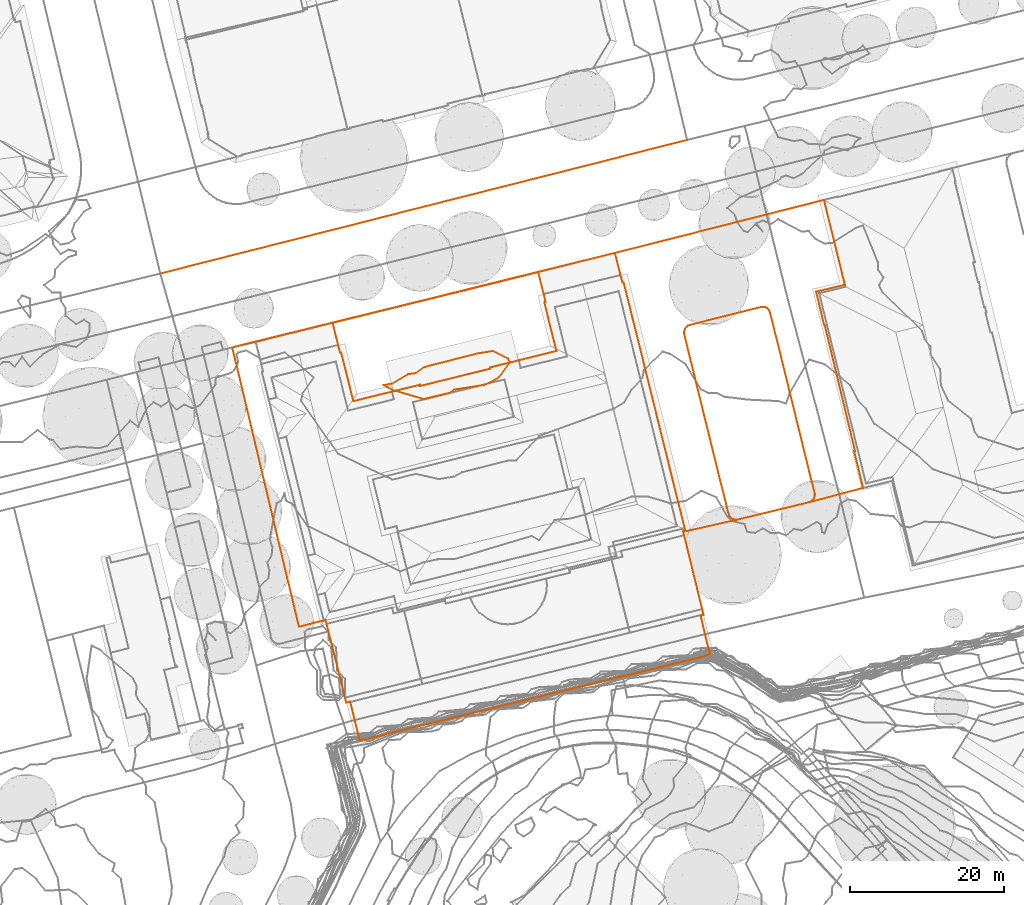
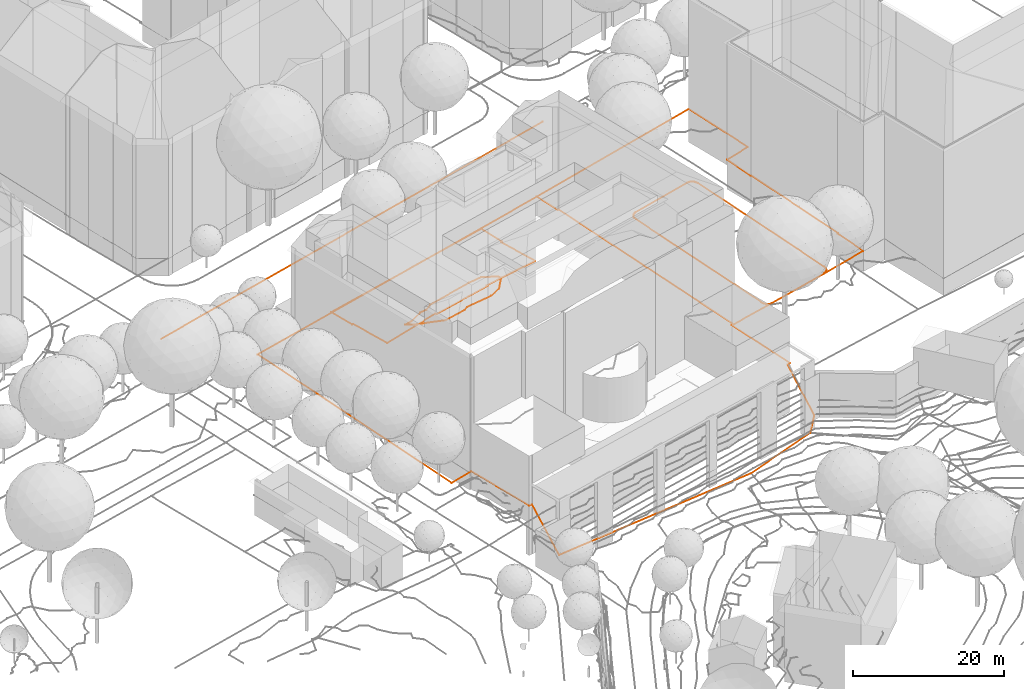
# Not in any storey, part 181 of 494: 6 proxies.
"""IFC2X3 model written with IfcOpenShell, lengths in metres."""

from ifc_helpers import new_model, entity, si_unit, frame, origin_with_axes, place, context, subcontext, project, element, save


model = new_model("IFC2X3")

# Units and contexts
model_context = context("Model", 3, precision=1e-05, world=origin_with_axes())
body_context = subcontext(model_context, "Body", "Model", "MODEL_VIEW")
ifc_project = project(units=[si_unit("AREAUNIT", "SQUARE_METRE"), si_unit("LENGTHUNIT", "METRE")], contexts=[model_context])

# Proxies
proxy_1_placement = place(None, frame((288.591732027, 373.6587317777, 541.001), z_axis=(0.0, 0.0, 1.0), x_axis=(1.0, 0.0, 0.0)))
element("IfcBuildingElementProxy", 1, at=proxy_1_placement, Name="Road 46", ObjectType="NOTDEFINED", context=body_context, shape_type="GeometricCurveSet", body=[
    entity("IfcGeometricCurveSet", [entity("IfcPolyline", [entity("IfcCartesianPoint", [0.0, 0.0, 0.0]), entity("IfcCartesianPoint", [34.4539999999, 8.7349997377, 0.326]), entity("IfcCartesianPoint", [68.2859999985, 17.3119994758, 0.647])])]),
])
proxy_2_placement = place(None, frame((347.5157320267, 376.3247160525, 541.7142049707), z_axis=(0.0, 0.0, 1.0), x_axis=(1.0, 0.0, 0.0)))
element("IfcBuildingElementProxy", 2, at=proxy_2_placement, Name="Roads Outline 53", ObjectType="NOTDEFINED", context=body_context, shape_type="GeometricCurveSet", body=[
    entity("IfcGeometricCurveSet", [entity("IfcPolyline", [entity("IfcCartesianPoint", [0.0, 0.0, 0.0]), entity("IfcCartesianPoint", [27.1069999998, 6.8729999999, 0.4775137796]), entity("IfcCartesianPoint", [29.8000000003, -4.105, 0.0668695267]), entity("IfcCartesianPoint", [26.0830000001, -5.0380000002, -0.1097041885]), entity("IfcCartesianPoint", [27.1570000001, -9.443, -0.3986468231]), entity("IfcCartesianPoint", [27.219, -9.4230000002, -0.3930229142]), entity("IfcCartesianPoint", [31.1329999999, -25.655, -1.2277701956]), entity("IfcCartesianPoint", [31.0070000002, -25.6950000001, -1.2331651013]), entity("IfcCartesianPoint", [32.1830000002, -30.4710000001, -1.5222006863]), entity("IfcCartesianPoint", [25.1350000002, -32.318, -1.5921736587]), entity("IfcCartesianPoint", [25.2310000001, -32.291, -1.5892982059]), entity("IfcCartesianPoint", [25.4560000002, -32.182, -1.5800318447]), entity("IfcCartesianPoint", [25.6460000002, -32.0210000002, -1.569376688]), entity("IfcCartesianPoint", [25.7910000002, -31.817, -1.5587249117]), entity("IfcCartesianPoint", [25.8810000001, -31.584, -1.5456667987]), entity("IfcCartesianPoint", [25.9100000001, -31.3360000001, -1.5296057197]), entity("IfcCartesianPoint", [25.8769999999, -31.0890000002, -1.5101132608]), entity("IfcCartesianPoint", [20.1310000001, -7.7720000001, -0.1719584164]), entity("IfcCartesianPoint", [20.0410000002, -7.5260000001, -0.1568625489]), entity("IfcCartesianPoint", [19.8910000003, -7.3120000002, -0.1403535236]), entity("IfcCartesianPoint", [19.6899999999, -7.1440000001, -0.1200905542]), entity("IfcCartesianPoint", [19.4530000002, -7.034, -0.1076824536]), entity("IfcCartesianPoint", [19.1950000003, -6.99, -0.0912392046]), entity("IfcCartesianPoint", [18.9339999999, -7.014, -0.0731587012]), entity("IfcCartesianPoint", [9.713, -9.3220000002, -0.2328251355]), entity("IfcCartesianPoint", [9.4649999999, -9.425, -0.2517277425]), entity("IfcCartesianPoint", [9.253, -9.5890000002, -0.2694180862]), entity("IfcCartesianPoint", [9.091, -9.8030000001, -0.2988066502]), entity("IfcCartesianPoint", [8.9900000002, -10.0520000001, -0.3315850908]), entity("IfcCartesianPoint", [8.9580000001, -10.318, -0.3578498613]), entity("IfcCartesianPoint", [8.9960000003, -10.584, -0.3762912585]), entity("IfcCartesianPoint", [14.7039999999, -33.7450000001, -1.6466737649]), entity("IfcCartesianPoint", [14.7760000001, -33.9950000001, -1.6755954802]), entity("IfcCartesianPoint", [14.9100000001, -34.219, -1.7018900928]), entity("IfcCartesianPoint", [15.0970000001, -34.4000000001, -1.7252035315]), entity("IfcCartesianPoint", [15.3250000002, -34.5260000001, -1.7438471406]), entity("IfcCartesianPoint", [15.5780000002, -34.5890000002, -1.7547536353]), entity("IfcCartesianPoint", [15.838, -34.585, -1.7402559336]), entity("IfcCartesianPoint", [9.1460000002, -36.078, -1.9149801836]), entity("IfcCartesianPoint", [1.1400000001, -3.8160000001, -0.1567824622]), entity("IfcCartesianPoint", [0.9720000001, -3.8570000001, -0.1541655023]), entity("IfcCartesianPoint", [0.0, 0.0, 0.0])])]),
])
proxy_3_placement = place(None, frame((356.4737320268, 366.0067160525, 541.3563551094), z_axis=(0.0, 0.0, 1.0), x_axis=(1.0, 0.0, 0.0)))
element("IfcBuildingElementProxy", 3, at=proxy_3_placement, Name="Roads Outline 54", ObjectType="NOTDEFINED", context=body_context, shape_type="GeometricCurveSet", body=[
    entity("IfcGeometricCurveSet", [entity("IfcPolyline", [entity("IfcCartesianPoint", [0.0380000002, -0.2660000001, -0.0184413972]), entity("IfcCartesianPoint", [0.0, 0.0, 0.0]), entity("IfcCartesianPoint", [0.0320000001, 0.2659999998, 0.0262647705]), entity("IfcCartesianPoint", [0.1329999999, 0.5149999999, 0.0590432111]), entity("IfcCartesianPoint", [0.2949999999, 0.7289999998, 0.0884317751]), entity("IfcCartesianPoint", [0.5069999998, 0.8929999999, 0.1061221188]), entity("IfcCartesianPoint", [0.7549999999, 0.9959999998, 0.1250247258]), entity("IfcCartesianPoint", [9.9759999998, 3.304, 0.2846911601]), entity("IfcCartesianPoint", [10.2370000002, 3.328, 0.2666106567]), entity("IfcCartesianPoint", [10.4950000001, 3.284, 0.2501674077]), entity("IfcCartesianPoint", [10.7319999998, 3.1739999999, 0.2377593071]), entity("IfcCartesianPoint", [10.9330000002, 3.0059999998, 0.2174963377]), entity("IfcCartesianPoint", [11.0830000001, 2.7919999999, 0.2009873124]), entity("IfcCartesianPoint", [11.173, 2.5459999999, 0.1858914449]), entity("IfcCartesianPoint", [16.9189999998, -20.7710000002, -1.1522633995]), entity("IfcCartesianPoint", [16.952, -21.0180000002, -1.1717558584]), entity("IfcCartesianPoint", [16.923, -21.2660000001, -1.1878169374]), entity("IfcCartesianPoint", [16.8330000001, -21.4990000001, -1.2008750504]), entity("IfcCartesianPoint", [16.6880000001, -21.7030000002, -1.2115268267]), entity("IfcCartesianPoint", [16.4980000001, -21.8640000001, -1.2221819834]), entity("IfcCartesianPoint", [16.273, -21.973, -1.2314483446]), entity("IfcCartesianPoint", [16.1770000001, -22.0, -1.2343237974]), entity("IfcCartesianPoint", [6.8799999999, -24.267, -1.3824060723]), entity("IfcCartesianPoint", [6.6200000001, -24.2710000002, -1.396903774]), entity("IfcCartesianPoint", [6.3670000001, -24.2080000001, -1.3859972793]), entity("IfcCartesianPoint", [6.139, -24.0820000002, -1.3673536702]), entity("IfcCartesianPoint", [5.952, -23.9010000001, -1.3440402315]), entity("IfcCartesianPoint", [5.818, -23.6770000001, -1.3177456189]), entity("IfcCartesianPoint", [5.7459999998, -23.4270000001, -1.2888239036]), entity("IfcCartesianPoint", [0.0380000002, -0.2660000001, -0.0184413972])])]),
])
proxy_4_placement = place(None, frame((310.9307320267, 367.2567160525, 541.4095219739), z_axis=(0.0, 0.0, 1.0), x_axis=(1.0, 0.0, 0.0)))
element("IfcBuildingElementProxy", 4, at=proxy_4_placement, Name="Roads Outline 61", ObjectType="NOTDEFINED", context=body_context, shape_type="GeometricCurveSet", body=[
    entity("IfcGeometricCurveSet", [entity("IfcPolyline", [entity("IfcCartesianPoint", [0.0, 0.0, 0.0]), entity("IfcCartesianPoint", [26.6460000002, 6.5799999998, 0.1190935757]), entity("IfcCartesianPoint", [27.6039999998, 2.7179999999, 0.0345169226]), entity("IfcCartesianPoint", [27.4339999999, 2.679, 0.0329783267]), entity("IfcCartesianPoint", [29.003, -3.635, 0.3148135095]), entity("IfcCartesianPoint", [20.3900000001, -5.7780000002, 0.6853006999]), entity("IfcCartesianPoint", [20.4270000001, -5.9280000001, 0.6710644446]), entity("IfcCartesianPoint", [11.3510000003, -8.1770000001, 0.6970756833]), entity("IfcCartesianPoint", [11.3100000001, -8.023, 0.7122428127]), entity("IfcCartesianPoint", [2.6800000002, -10.1390000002, 0.2442216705]), entity("IfcCartesianPoint", [1.111, -3.8290000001, 0.0232908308]), entity("IfcCartesianPoint", [0.9569999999, -3.8690000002, 0.0237035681]), entity("IfcCartesianPoint", [0.0, 0.0, 0.0])])]),
])
proxy_5_placement = place(None, frame((297.9177320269, 364.0867160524, 541.0868628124), z_axis=(0.0, 0.0, 1.0), x_axis=(1.0, 0.0, 0.0)))
element("IfcBuildingElementProxy", 5, at=proxy_5_placement, Name="Cadastre 52", ObjectType="NOTDEFINED", context=body_context, shape_type="GeometricCurveSet", body=[
    entity("IfcGeometricCurveSet", [entity("IfcPolyline", [entity("IfcCartesianPoint", [0.0, 0.0, 0.0]), entity("IfcCartesianPoint", [49.5979999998, 12.2380000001, 0.6273421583]), entity("IfcCartesianPoint", [50.5699999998, 8.3810000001, 0.4731766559]), entity("IfcCartesianPoint", [50.7379999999, 8.422, 0.4705596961]), entity("IfcCartesianPoint", [58.7439999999, -23.8399999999, -1.2876380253]), entity("IfcCartesianPoint", [58.4539999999, -23.909, -1.2834195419]), entity("IfcCartesianPoint", [61.0949999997, -34.673, -1.7855340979]), entity("IfcCartesianPoint", [60.7119999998, -34.7689999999, -1.828223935]), entity("IfcCartesianPoint", [61.8969999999, -39.747, -7.3590085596]), entity("IfcCartesianPoint", [61.0789999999, -40.0729999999, -9.7361580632]), entity("IfcCartesianPoint", [50.6429999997, -42.6259999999, -10.9930923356]), entity("IfcCartesianPoint", [16.5239999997, -50.9739999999, -7.1991593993]), entity("IfcCartesianPoint", [15.284, -45.9239999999, -1.6176135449]), entity("IfcCartesianPoint", [14.7739999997, -46.044, -1.6151669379]), entity("IfcCartesianPoint", [12.0929999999, -35.3529999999, -1.6459982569]), entity("IfcCartesianPoint", [8.6379999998, -36.213, -1.7770796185]), entity("IfcCartesianPoint", [0.0, 0.0, 0.0])])]),
])
proxy_6_placement = place(None, frame((317.5149777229, 359.1707160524, 542.0), z_axis=(0.0, 0.0, 1.0), x_axis=(1.0, 0.0, 0.0)))
element("IfcBuildingElementProxy", 6, at=proxy_6_placement, Name="Contour Line 542.0 m", ObjectType="NOTDEFINED", context=body_context, shape_type="GeometricCurveSet", body=[
    entity("IfcGeometricCurveSet", [entity("IfcPolyline", [entity("IfcCartesianPoint", [8.5076847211, -1.0, 0.0]), entity("IfcCartesianPoint", [5.1627543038, -1.7951645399, 0.0]), entity("IfcCartesianPoint", [1.1627543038, -0.6211849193, 0.0]), entity("IfcCartesianPoint", [0.0, 0.0, 0.0]), entity("IfcCartesianPoint", [1.1627543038, 0.2524319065, 0.0]), entity("IfcCartesianPoint", [3.1627543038, 1.4288341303, 0.0]), entity("IfcCartesianPoint", [4.1627543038, 1.5649570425, 0.0]), entity("IfcCartesianPoint", [5.1627543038, 2.3238133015, 0.0]), entity("IfcCartesianPoint", [12.1627543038, 4.1272132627, 0.0]), entity("IfcCartesianPoint", [14.1627543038, 4.434488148, 0.0]), entity("IfcCartesianPoint", [16.1627543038, 3.4556213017, 0.0]), entity("IfcCartesianPoint", [16.3901612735, 3.0, 0.0]), entity("IfcCartesianPoint", [14.9273079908, 1.0, 0.0]), entity("IfcCartesianPoint", [13.1627543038, 0.0593103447, 0.0]), entity("IfcCartesianPoint", [9.1627543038, -0.564441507, 0.0]), entity("IfcCartesianPoint", [8.5076847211, -1.0, 0.0])])]),
])

save(model, "model.ifc")
